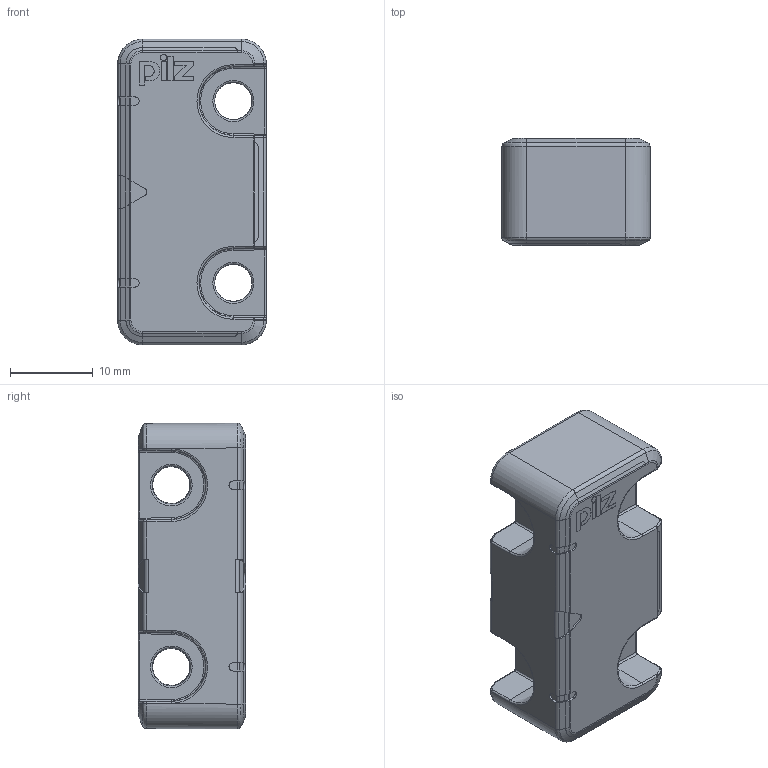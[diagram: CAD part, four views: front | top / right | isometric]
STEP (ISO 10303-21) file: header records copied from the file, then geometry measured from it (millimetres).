
FILE_DESCRIPTION((''),'2;1');
FILE_NAME('D:\_Vault\Workspace\Projektordner\Sensoren\PSENcsII\Kundendaten\H303909_PSENcsII_M8_actuator.stp','2014-07-24T12:58:38',('aschlecht'),(''),'Autodesk Inventor 2013','Autodesk Inventor 2013','');
FILE_SCHEMA(('CONFIG_CONTROL_DESIGN'));
Length unit declared in the file: millimetre
Products named in the file (1): H303909_PSENcsII_M8_actuator
Bounding box: 17.99 x 13.02 x 36.99 mm (x, y, z)
Volume: 6650.8 mm3; surface area: 3087.2 mm2
Topology: 1 solids, 1 shells, 348 faces, 889 edges, 542 vertices
Faces by surface type: bspline 116, plane 107, cylinder 101, cone 12, torus 12
Full cylindrical faces by diameter (mm): 0.775 x1
Entity records: 13231 total; most frequent: CARTESIAN_POINT 5211, ORIENTED_EDGE 1728, DIRECTION 1512, EDGE_CURVE 864, AXIS2_PLACEMENT_3D 545, VERTEX_POINT 532, VECTOR 422, LINE 422
